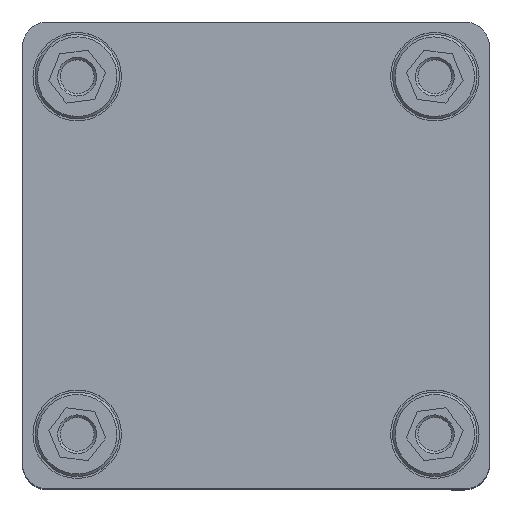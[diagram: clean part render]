
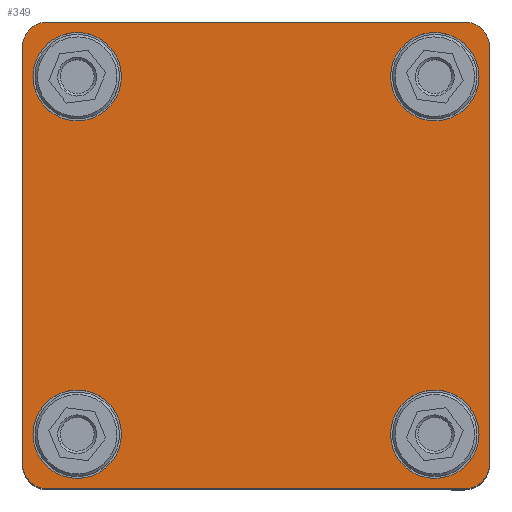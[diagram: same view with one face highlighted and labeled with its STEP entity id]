
A CAD part, top view. The second image highlights one B-rep face of the part: STEP entity #349.
In plain terms, the highlighted planar face has unit normal (0, 0, 1) as drawn and (1, 0, 0) by its records, which use the part's own axes.
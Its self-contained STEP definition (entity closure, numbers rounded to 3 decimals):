
#349 = ADVANCED_FACE ( 'NONE', ( #46323, #23078, #368, #19520, #32509 ), #46032, .T. ) ;
#368 = FACE_BOUND ( 'NONE', #52993, .T. ) ;
#748 = VERTEX_POINT ( 'NONE', #57791 ) ;
#1176 = CARTESIAN_POINT ( 'NONE',  ( 0., 36., -36. ) ) ;
#2269 = CARTESIAN_POINT ( 'NONE',  ( 0., 42., 42. ) ) ;
#3489 = CARTESIAN_POINT ( 'NONE',  ( 0., -42., -47. ) ) ;
#3947 = CIRCLE ( 'NONE', #13325, 8.9 ) ;
#4306 = CARTESIAN_POINT ( 'NONE',  ( 0., 36., 27.1 ) ) ;
#4342 = LINE ( 'NONE', #18487, #26518 ) ;
#5776 = VERTEX_POINT ( 'NONE', #24323 ) ;
#6171 = DIRECTION ( 'NONE',  ( 0., 0., -1. ) ) ;
#6192 = ORIENTED_EDGE ( 'NONE', *, *, #54967, .F. ) ;
#6416 = VERTEX_POINT ( 'NONE', #53689 ) ;
#6935 = ORIENTED_EDGE ( 'NONE', *, *, #26543, .F. ) ;
#7002 = CARTESIAN_POINT ( 'NONE',  ( 0., 36., -44.9 ) ) ;
#7389 = CARTESIAN_POINT ( 'NONE',  ( 0., -36., -36. ) ) ;
#7599 = CIRCLE ( 'NONE', #48056, 5. ) ;
#7651 = AXIS2_PLACEMENT_3D ( 'NONE', #21585, #16280, #31017 ) ;
#7685 = CIRCLE ( 'NONE', #57545, 5. ) ;
#8099 = ORIENTED_EDGE ( 'NONE', *, *, #11066, .F. ) ;
#8105 = CARTESIAN_POINT ( 'NONE',  ( 0., 36., -27.1 ) ) ;
#8182 = CARTESIAN_POINT ( 'NONE',  ( 0., -36., -36. ) ) ;
#8890 = CIRCLE ( 'NONE', #41814, 8.9 ) ;
#8940 = CARTESIAN_POINT ( 'NONE',  ( 0., 42., -42. ) ) ;
#9529 = CARTESIAN_POINT ( 'NONE',  ( 0., -36., 44.9 ) ) ;
#10388 = VERTEX_POINT ( 'NONE', #38912 ) ;
#10940 = VERTEX_POINT ( 'NONE', #31990 ) ;
#11066 = EDGE_CURVE ( 'NONE', #46723, #10940, #54156, .T. ) ;
#11089 = CIRCLE ( 'NONE', #11988, 8.9 ) ;
#11478 = AXIS2_PLACEMENT_3D ( 'NONE', #46249, #54821, #6171 ) ;
#11959 = VECTOR ( 'NONE', #55963, 1000. ) ;
#11988 = AXIS2_PLACEMENT_3D ( 'NONE', #42227, #28968, #25105 ) ;
#12179 = EDGE_CURVE ( 'NONE', #10388, #748, #8890, .T. ) ;
#12970 = AXIS2_PLACEMENT_3D ( 'NONE', #1176, #45674, #19161 ) ;
#13325 = AXIS2_PLACEMENT_3D ( 'NONE', #20382, #38074, #56917 ) ;
#13360 = EDGE_CURVE ( 'NONE', #56201, #53346, #24438, .T. ) ;
#14218 = CARTESIAN_POINT ( 'NONE',  ( 0., -47., 47. ) ) ;
#14565 = VERTEX_POINT ( 'NONE', #8105 ) ;
#15355 = DIRECTION ( 'NONE',  ( 1., 0., 0. ) ) ;
#16280 = DIRECTION ( 'NONE',  ( 1., 0., 0. ) ) ;
#16305 = DIRECTION ( 'NONE',  ( 0., 0., -1. ) ) ;
#17369 = ORIENTED_EDGE ( 'NONE', *, *, #24778, .F. ) ;
#18451 = CARTESIAN_POINT ( 'NONE',  ( 0., -47., 42. ) ) ;
#18487 = CARTESIAN_POINT ( 'NONE',  ( 0., -47., -47. ) ) ;
#18985 = ORIENTED_EDGE ( 'NONE', *, *, #44084, .T. ) ;
#19086 = DIRECTION ( 'NONE',  ( 0., 0., -1. ) ) ;
#19161 = DIRECTION ( 'NONE',  ( 0., 0., -1. ) ) ;
#19412 = EDGE_CURVE ( 'NONE', #52607, #51693, #57262, .T. ) ;
#19520 = FACE_BOUND ( 'NONE', #43063, .T. ) ;
#19887 = ORIENTED_EDGE ( 'NONE', *, *, #57090, .T. ) ;
#20244 = DIRECTION ( 'NONE',  ( 1., 0., 0. ) ) ;
#20307 = CARTESIAN_POINT ( 'NONE',  ( 0., 47., -47. ) ) ;
#20382 = CARTESIAN_POINT ( 'NONE',  ( 0., 36., 36. ) ) ;
#20432 = ORIENTED_EDGE ( 'NONE', *, *, #13360, .F. ) ;
#20656 = DIRECTION ( 'NONE',  ( 0., 0., -1. ) ) ;
#20682 = CIRCLE ( 'NONE', #54557, 8.9 ) ;
#20874 = EDGE_LOOP ( 'NONE', ( #6192, #8099 ) ) ;
#21017 = DIRECTION ( 'NONE',  ( 1., 0., 0. ) ) ;
#21499 = CARTESIAN_POINT ( 'NONE',  ( 0., -47., -42. ) ) ;
#21585 = CARTESIAN_POINT ( 'NONE',  ( 0., 36., 36. ) ) ;
#21597 = CARTESIAN_POINT ( 'NONE',  ( 0., -47., -47. ) ) ;
#21608 = DIRECTION ( 'NONE',  ( 1., 0., 0. ) ) ;
#22371 = AXIS2_PLACEMENT_3D ( 'NONE', #8182, #30300, #57975 ) ;
#22461 = VECTOR ( 'NONE', #24347, 1000. ) ;
#22794 = DIRECTION ( 'NONE',  ( 0., 0., -1. ) ) ;
#23078 = FACE_BOUND ( 'NONE', #20874, .T. ) ;
#23435 = ORIENTED_EDGE ( 'NONE', *, *, #23711, .F. ) ;
#23575 = ORIENTED_EDGE ( 'NONE', *, *, #57255, .T. ) ;
#23647 = DIRECTION ( 'NONE',  ( 1., 0., 0. ) ) ;
#23710 = ORIENTED_EDGE ( 'NONE', *, *, #12179, .F. ) ;
#23711 = EDGE_CURVE ( 'NONE', #31309, #53490, #4342, .T. ) ;
#23934 = CARTESIAN_POINT ( 'NONE',  ( 0., 0., 0. ) ) ;
#24283 = DIRECTION ( 'NONE',  ( 0., 0., -1. ) ) ;
#24323 = CARTESIAN_POINT ( 'NONE',  ( 0., -42., 47. ) ) ;
#24347 = DIRECTION ( 'NONE',  ( 0., -1., 0. ) ) ;
#24438 = LINE ( 'NONE', #20307, #11959 ) ;
#24778 = EDGE_CURVE ( 'NONE', #6416, #28528, #3947, .T. ) ;
#25088 = EDGE_CURVE ( 'NONE', #31309, #51693, #45354, .T. ) ;
#25105 = DIRECTION ( 'NONE',  ( 0., 0., -1. ) ) ;
#25195 = VERTEX_POINT ( 'NONE', #55679 ) ;
#26051 = CARTESIAN_POINT ( 'NONE',  ( 0., 42., -47. ) ) ;
#26518 = VECTOR ( 'NONE', #44432, 1000. ) ;
#26543 = EDGE_CURVE ( 'NONE', #28528, #6416, #33091, .T. ) ;
#27185 = ORIENTED_EDGE ( 'NONE', *, *, #19412, .F. ) ;
#27349 = AXIS2_PLACEMENT_3D ( 'NONE', #8940, #36636, #22794 ) ;
#28169 = CARTESIAN_POINT ( 'NONE',  ( 0., -36., 36. ) ) ;
#28528 = VERTEX_POINT ( 'NONE', #4306 ) ;
#28709 = CARTESIAN_POINT ( 'NONE',  ( 0., -36., 36. ) ) ;
#28968 = DIRECTION ( 'NONE',  ( 1., 0., 0. ) ) ;
#29031 = DIRECTION ( 'NONE',  ( 0., 0., -1. ) ) ;
#29733 = ORIENTED_EDGE ( 'NONE', *, *, #25088, .T. ) ;
#30163 = CIRCLE ( 'NONE', #27349, 5. ) ;
#30300 = DIRECTION ( 'NONE',  ( 1., 0., 0. ) ) ;
#30497 = EDGE_CURVE ( 'NONE', #33443, #14565, #11089, .T. ) ;
#31017 = DIRECTION ( 'NONE',  ( 0., 0., -1. ) ) ;
#31309 = VERTEX_POINT ( 'NONE', #21499 ) ;
#31990 = CARTESIAN_POINT ( 'NONE',  ( 0., -36., 27.1 ) ) ;
#32280 = EDGE_LOOP ( 'NONE', ( #50563, #23710 ) ) ;
#32509 = FACE_OUTER_BOUND ( 'NONE', #56254, .T. ) ;
#33091 = CIRCLE ( 'NONE', #7651, 8.9 ) ;
#33443 = VERTEX_POINT ( 'NONE', #7002 ) ;
#33631 = EDGE_CURVE ( 'NONE', #748, #10388, #50640, .T. ) ;
#34782 = CARTESIAN_POINT ( 'NONE',  ( 0., 47., 42. ) ) ;
#34986 = CARTESIAN_POINT ( 'NONE',  ( 0., 47., -42. ) ) ;
#35597 = ORIENTED_EDGE ( 'NONE', *, *, #51281, .F. ) ;
#36636 = DIRECTION ( 'NONE',  ( 1., 0., 0. ) ) ;
#37695 = VECTOR ( 'NONE', #54314, 1000. ) ;
#38074 = DIRECTION ( 'NONE',  ( 1., 0., 0. ) ) ;
#38912 = CARTESIAN_POINT ( 'NONE',  ( 0., -36., -27.1 ) ) ;
#39315 = CIRCLE ( 'NONE', #12970, 8.9 ) ;
#41814 = AXIS2_PLACEMENT_3D ( 'NONE', #7389, #15355, #20656 ) ;
#41913 = DIRECTION ( 'NONE',  ( 0., 0., -1. ) ) ;
#42227 = CARTESIAN_POINT ( 'NONE',  ( 0., 36., -36. ) ) ;
#42700 = ORIENTED_EDGE ( 'NONE', *, *, #57287, .F. ) ;
#43063 = EDGE_LOOP ( 'NONE', ( #6935, #17369 ) ) ;
#44084 = EDGE_CURVE ( 'NONE', #56201, #25195, #7685, .T. ) ;
#44432 = DIRECTION ( 'NONE',  ( 0., 0., 1. ) ) ;
#45354 = CIRCLE ( 'NONE', #11478, 5. ) ;
#45674 = DIRECTION ( 'NONE',  ( 1., 0., 0. ) ) ;
#46032 = PLANE ( 'NONE',  #52117 ) ;
#46109 = DIRECTION ( 'NONE',  ( 1., 0., 0. ) ) ;
#46249 = CARTESIAN_POINT ( 'NONE',  ( 0., -42., -42. ) ) ;
#46323 = FACE_BOUND ( 'NONE', #32280, .T. ) ;
#46723 = VERTEX_POINT ( 'NONE', #9529 ) ;
#48056 = AXIS2_PLACEMENT_3D ( 'NONE', #56695, #21608, #16305 ) ;
#50563 = ORIENTED_EDGE ( 'NONE', *, *, #33631, .F. ) ;
#50640 = CIRCLE ( 'NONE', #22371, 8.9 ) ;
#51281 = EDGE_CURVE ( 'NONE', #14565, #33443, #39315, .T. ) ;
#51693 = VERTEX_POINT ( 'NONE', #3489 ) ;
#52117 = AXIS2_PLACEMENT_3D ( 'NONE', #23934, #23647, #41913 ) ;
#52607 = VERTEX_POINT ( 'NONE', #26051 ) ;
#52993 = EDGE_LOOP ( 'NONE', ( #53579, #35597 ) ) ;
#53346 = VERTEX_POINT ( 'NONE', #34986 ) ;
#53490 = VERTEX_POINT ( 'NONE', #18451 ) ;
#53579 = ORIENTED_EDGE ( 'NONE', *, *, #30497, .F. ) ;
#53689 = CARTESIAN_POINT ( 'NONE',  ( 0., 36., 44.9 ) ) ;
#54156 = CIRCLE ( 'NONE', #55070, 8.9 ) ;
#54314 = DIRECTION ( 'NONE',  ( 0., 1., 0. ) ) ;
#54557 = AXIS2_PLACEMENT_3D ( 'NONE', #28169, #46109, #29031 ) ;
#54599 = LINE ( 'NONE', #14218, #37695 ) ;
#54821 = DIRECTION ( 'NONE',  ( 1., 0., 0. ) ) ;
#54967 = EDGE_CURVE ( 'NONE', #10940, #46723, #20682, .T. ) ;
#55070 = AXIS2_PLACEMENT_3D ( 'NONE', #28709, #21017, #24283 ) ;
#55679 = CARTESIAN_POINT ( 'NONE',  ( 0., 42., 47. ) ) ;
#55963 = DIRECTION ( 'NONE',  ( 0., 0., -1. ) ) ;
#56201 = VERTEX_POINT ( 'NONE', #34782 ) ;
#56254 = EDGE_LOOP ( 'NONE', ( #42700, #19887, #23435, #29733, #27185, #23575, #20432, #18985 ) ) ;
#56695 = CARTESIAN_POINT ( 'NONE',  ( 0., -42., 42. ) ) ;
#56917 = DIRECTION ( 'NONE',  ( 0., 0., -1. ) ) ;
#57090 = EDGE_CURVE ( 'NONE', #5776, #53490, #7599, .T. ) ;
#57255 = EDGE_CURVE ( 'NONE', #52607, #53346, #30163, .T. ) ;
#57262 = LINE ( 'NONE', #21597, #22461 ) ;
#57287 = EDGE_CURVE ( 'NONE', #5776, #25195, #54599, .T. ) ;
#57545 = AXIS2_PLACEMENT_3D ( 'NONE', #2269, #20244, #19086 ) ;
#57791 = CARTESIAN_POINT ( 'NONE',  ( 0., -36., -44.9 ) ) ;
#57975 = DIRECTION ( 'NONE',  ( 0., 0., -1. ) ) ;
